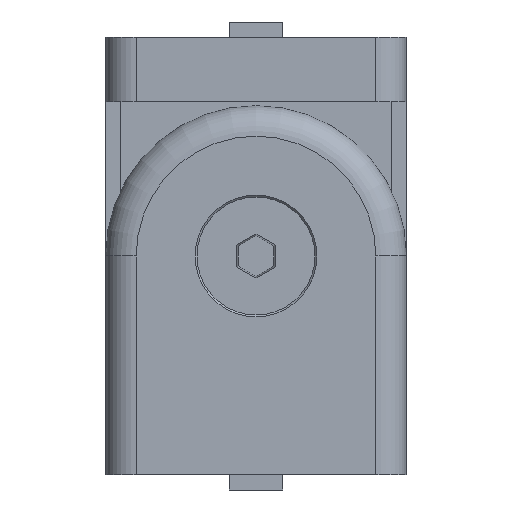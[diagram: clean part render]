
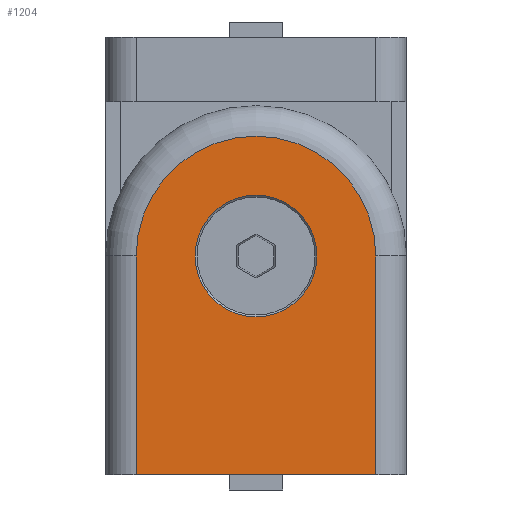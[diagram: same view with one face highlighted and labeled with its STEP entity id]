
A CAD part, front view. The second image highlights one B-rep face of the part: STEP entity #1204.
In plain terms, the highlighted planar face has unit normal (0, -1, 0) as drawn and (0, 1, 0) by its records, which use the part's own axes.
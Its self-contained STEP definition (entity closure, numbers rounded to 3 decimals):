
#39=FACE_BOUND('',#194,.T.);
#64=CIRCLE('',#1280,15.75);
#66=CIRCLE('',#1284,8.);
#123=FACE_OUTER_BOUND('',#193,.T.);
#193=EDGE_LOOP('',(#856,#857,#858,#859));
#194=EDGE_LOOP('',(#860));
#294=LINE('',#1786,#424);
#297=LINE('',#1801,#427);
#298=LINE('',#1803,#428);
#424=VECTOR('',#1422,28.75);
#427=VECTOR('',#1439,28.75);
#428=VECTOR('',#1442,31.5);
#549=VERTEX_POINT('',#1783);
#550=VERTEX_POINT('',#1785);
#552=VERTEX_POINT('',#1791);
#554=VERTEX_POINT('',#1797);
#556=VERTEX_POINT('',#1804);
#669=EDGE_CURVE('',#549,#550,#294,.T.);
#674=EDGE_CURVE('',#550,#552,#64,.T.);
#677=EDGE_CURVE('',#552,#554,#297,.T.);
#678=EDGE_CURVE('',#549,#554,#298,.T.);
#679=EDGE_CURVE('',#556,#556,#66,.T.);
#856=ORIENTED_EDGE('',*,*,#677,.F.);
#857=ORIENTED_EDGE('',*,*,#674,.F.);
#858=ORIENTED_EDGE('',*,*,#669,.F.);
#859=ORIENTED_EDGE('',*,*,#678,.T.);
#860=ORIENTED_EDGE('',*,*,#679,.T.);
#1152=PLANE('',#1283);
#1204=ADVANCED_FACE('',(#123,#39),#1152,.T.);
#1280=AXIS2_PLACEMENT_3D('',#1795,#1432,#1433);
#1283=AXIS2_PLACEMENT_3D('',#1802,#1440,#1441);
#1284=AXIS2_PLACEMENT_3D('',#1805,#1443,#1444);
#1422=DIRECTION('',(0.,0.,1.));
#1432=DIRECTION('center_axis',(0.,-1.,0.));
#1433=DIRECTION('ref_axis',(0.,0.,
1.));
#1439=DIRECTION('',(0.,0.,-1.));
#1440=DIRECTION('center_axis',(0.,1.,0.));
#1441=DIRECTION('ref_axis',(-1.,0.,0.));
#1442=DIRECTION('',(-1.,0.,0.));
#1443=DIRECTION('center_axis',(0.,-1.,0.));
#1444=DIRECTION('ref_axis',(1.,0.,0.));
#1783=CARTESIAN_POINT('',(15.75,19.75,0.));
#1785=CARTESIAN_POINT('',(15.75,19.75,28.75));
#1786=CARTESIAN_POINT('',(15.75,19.75,0.));
#1791=CARTESIAN_POINT('',(-15.75,19.75,28.75));
#1795=CARTESIAN_POINT('Origin',(0.,19.75,28.75));
#1797=CARTESIAN_POINT('',(-15.75,19.75,0.));
#1801=CARTESIAN_POINT('',(-15.75,19.75,0.));
#1802=CARTESIAN_POINT('Origin',(19.75,19.75,0.));
#1803=CARTESIAN_POINT('',(19.75,19.75,0.));
#1804=CARTESIAN_POINT('',(8.,19.75,28.75));
#1805=CARTESIAN_POINT('Origin',(0.,19.75,28.75));
